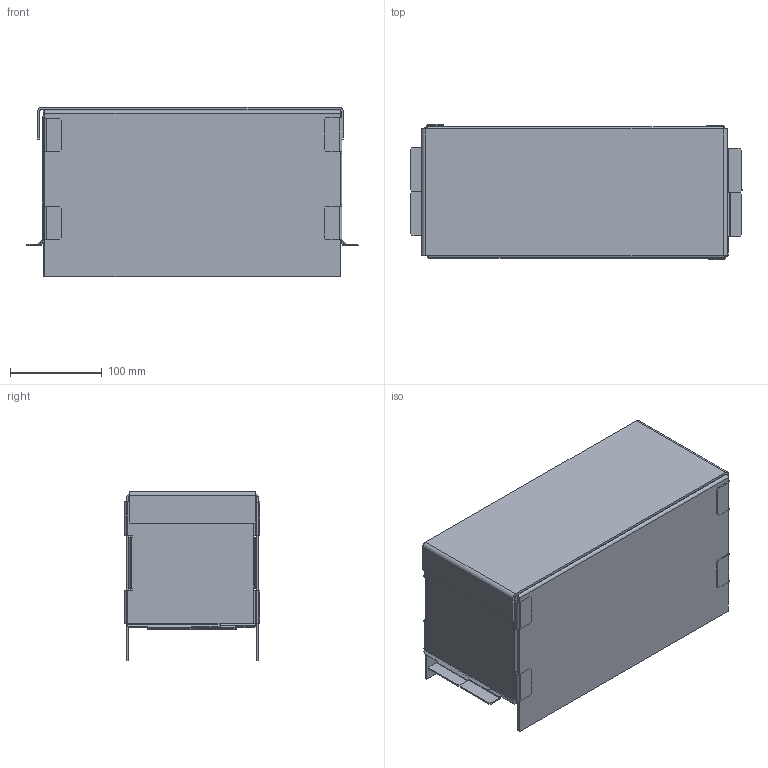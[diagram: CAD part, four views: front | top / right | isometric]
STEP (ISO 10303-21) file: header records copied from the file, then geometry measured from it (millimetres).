
FILE_DESCRIPTION(('STEP AP242'),'1');
FILE_NAME('lvs04953.stp','2021-09-29T19:28:56',('TraceParts'),('TraceParts S.A.'),'Spatial InterOp 3D',' ',' ');
FILE_SCHEMA(('AP242_MANAGED_MODEL_BASED_3D_ENGINEERING_MIM_LF {1 0 10303 442 1 1 4}'));
Length unit declared in the file: millimetre
Products named in the file (1): lvs04953_1
Bounding box: 361.5 x 147 x 184.38 mm (x, y, z)
Volume: 528835.7 mm3; surface area: 560077.8 mm2
Topology: 7 solids, 7 shells, 306 faces, 844 edges, 552 vertices
Faces by surface type: plane 242, cylinder 64
Entity records: 9717 total; most frequent: CARTESIAN_POINT 1709, ORIENTED_EDGE 1688, DIRECTION 1598, EDGE_CURVE 844, LINE 716, VECTOR 716, VERTEX_POINT 552, AXIS2_PLACEMENT_3D 441
